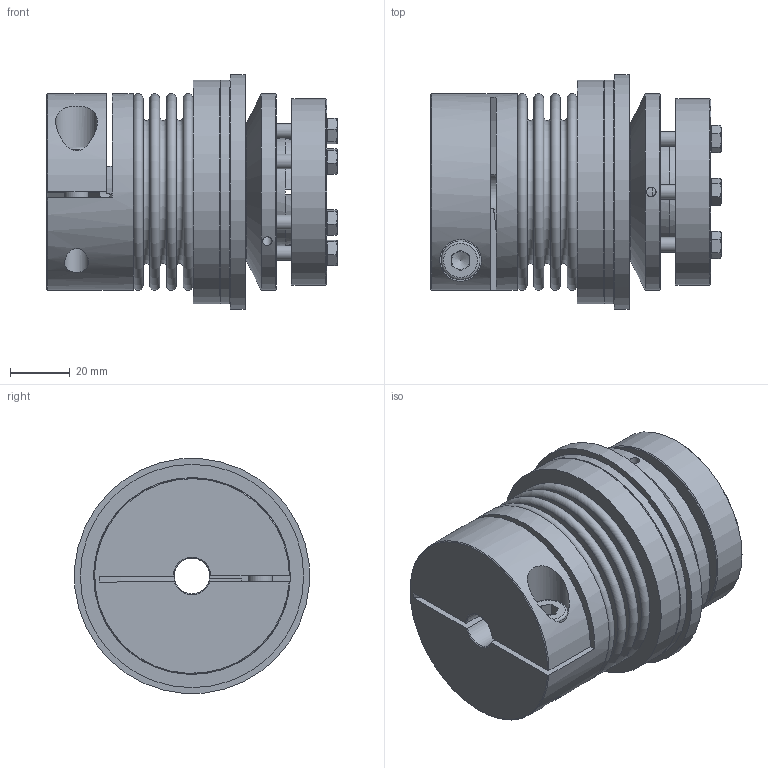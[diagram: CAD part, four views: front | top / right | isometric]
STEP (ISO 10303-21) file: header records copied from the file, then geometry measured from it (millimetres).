
FILE_DESCRIPTION( ( 'Unknown' ), '1' );
FILE_NAME( 'C:/Users/skarpstein/Desktop/Korrigierte 3D Modelle/KBK-B-KA/KBK-BKA-60-98.stp', 'Unknown', ( 'Unknown' ), ( 'Unknown' ), 'PSStep 16.0.42', 'Unknown', ' ' );
FILE_SCHEMA( ( 'AUTOMOTIVE_DESIGN { 1 0 10303 214 1 1 1 1 }' ) );
Length unit declared in the file: millimetre
Products named in the file (10): Assem1; Stellring 60; Druckring 60; Flansch BK60; KN60_Standard_2; Socket Head Cap Screw_DIN_DIN 912 M8 x 25 --- 25N_2; BK60_Standard_0; KBK L-A-60 Grundkörper_0; Druckring L-A-60_0; din_en_24017_m5x20_0
Assembly tree (14 placements, depth 2):
  Assem1
    Stellring 60
    Druckring 60
    Flansch BK60
    KN60_Standard_2
    Socket Head Cap Screw_DIN_DIN 912 M8 x 25 --- 25N_2
    BK60_Standard_0
    KBK L-A-60 Grundkörper_0
    Druckring L-A-60_0
    din_en_24017_m5x20_0  x6
Bounding box: 97.5 x 78.8 x 78.8 mm (x, y, z)
Volume: 244608.4 mm3; surface area: 108477.6 mm2
Topology: 14 solids, 14 shells, 306 faces, 637 edges, 407 vertices
Faces by surface type: plane 148, cone 72, cylinder 60, torus 26
Full cylindrical faces by diameter (mm): 3.242 x3, 4 x3, 4.134 x6, 5 x6, 5.5 x6, 6.88 x6, 8 x2, 8.5 x1, 12 x1, 13 x1, 14 x1, 15 x1, 33 x1, 35 x2, 35.937 x1, 42 x1, 46 x2, 46.5 x1, 47 x1, 56.3 x2, 57.3 x2, 61.3 x1, 62.5 x1, 66 x2, 75 x2, 79 x1
Entity records: 7043 total; most frequent: CARTESIAN_POINT 1343, DIRECTION 885, ORIENTED_EDGE 610, AXIS2_PLACEMENT_3D 402, EDGE_LOOP 348, EDGE_CURVE 305, FACE_OUTER_BOUND 264, VERTEX_POINT 252
